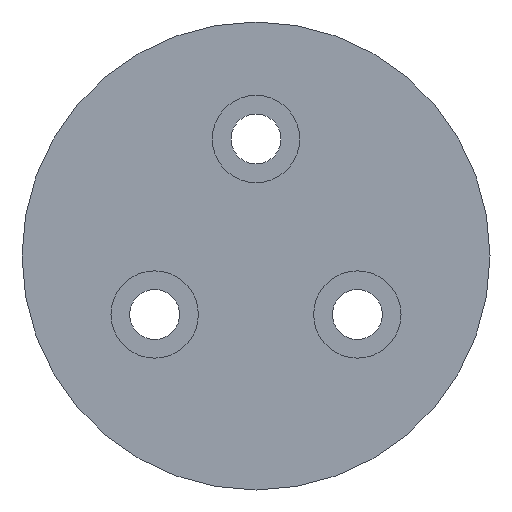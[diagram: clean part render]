
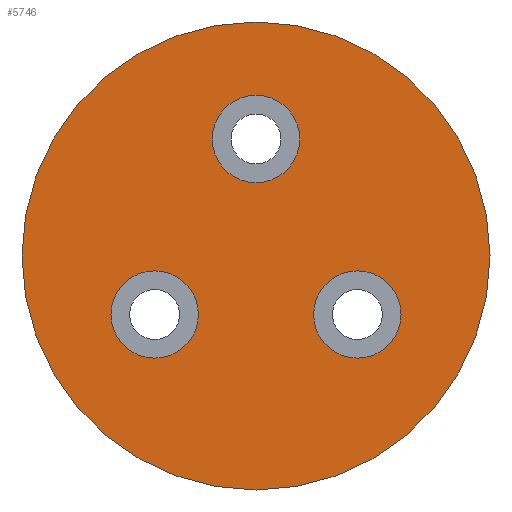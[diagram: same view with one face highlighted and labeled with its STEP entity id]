
A CAD part, front view. The second image highlights one B-rep face of the part: STEP entity #5746.
In plain terms, the highlighted planar face has unit normal (0, -1, 0).
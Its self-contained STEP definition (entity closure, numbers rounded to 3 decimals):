
#5596 = VERTEX_POINT ( 'NONE', #7593 ) ;
#5601 = EDGE_CURVE ( 'NONE', #5610, #5596, #7588, .T. ) ;
#5610 = VERTEX_POINT ( 'NONE', #7627 ) ;
#5650 = VERTEX_POINT ( 'NONE', #7676 ) ;
#5651 = EDGE_CURVE ( 'NONE', #5657, #5650, #7675, .T. ) ;
#5657 = VERTEX_POINT ( 'NONE', #7725 ) ;
#5662 = VERTEX_POINT ( 'NONE', #7713 ) ;
#5679 = EDGE_LOOP ( 'NONE', ( #5720, #5733 ) ) ;
#5681 = EDGE_LOOP ( 'NONE', ( #5736, #5725 ) ) ;
#5693 = EDGE_CURVE ( 'NONE', #5662, #5699, #7793, .T. ) ;
#5699 = VERTEX_POINT ( 'NONE', #7776 ) ;
#5714 = EDGE_CURVE ( 'NONE', #5721, #5722, #7814, .T. ) ;
#5717 = ORIENTED_EDGE ( 'NONE', *, *, #5651, .F. ) ;
#5718 = EDGE_CURVE ( 'NONE', #5596, #5610, #7809, .T. ) ;
#5720 = ORIENTED_EDGE ( 'NONE', *, *, #5714, .F. ) ;
#5721 = VERTEX_POINT ( 'NONE', #7804 ) ;
#5722 = VERTEX_POINT ( 'NONE', #7803 ) ;
#5723 = EDGE_CURVE ( 'NONE', #5722, #5721, #7802, .T. ) ;
#5725 = ORIENTED_EDGE ( 'NONE', *, *, #5601, .F. ) ;
#5726 = EDGE_LOOP ( 'NONE', ( #5735, #5741 ) ) ;
#5731 = ORIENTED_EDGE ( 'NONE', *, *, #5732, .F. ) ;
#5732 = EDGE_CURVE ( 'NONE', #5650, #5657, #7850, .T. ) ;
#5733 = ORIENTED_EDGE ( 'NONE', *, *, #5723, .F. ) ;
#5735 = ORIENTED_EDGE ( 'NONE', *, *, #5740, .F. ) ;
#5736 = ORIENTED_EDGE ( 'NONE', *, *, #5718, .F. ) ;
#5740 = EDGE_CURVE ( 'NONE', #5699, #5662, #7838, .T. ) ;
#5741 = ORIENTED_EDGE ( 'NONE', *, *, #5693, .F. ) ;
#5746 = ADVANCED_FACE ( 'NONE', ( #7893, #7888, #7887, #7886 ), #7885, .F. ) ;
#5747 = EDGE_LOOP ( 'NONE', ( #5731, #5717 ) ) ;
#7584 = DIRECTION ( 'NONE',  ( 0., 0., -1. ) ) ;
#7585 = DIRECTION ( 'NONE',  ( 0., -1., 0. ) ) ;
#7586 = CARTESIAN_POINT ( 'NONE',  ( 0., 0., 9.525 ) ) ;
#7587 = AXIS2_PLACEMENT_3D ( 'NONE', #7586, #7585, #7584 ) ;
#7588 = CIRCLE ( 'NONE', #7587, 3.556 ) ;
#7593 = CARTESIAN_POINT ( 'NONE',  ( 0., 0., 5.969 ) ) ;
#7627 = CARTESIAN_POINT ( 'NONE',  ( 0., 0., 13.081 ) ) ;
#7671 = DIRECTION ( 'NONE',  ( 0., 0., -1. ) ) ;
#7672 = DIRECTION ( 'NONE',  ( 0., -1., 0. ) ) ;
#7673 = CARTESIAN_POINT ( 'NONE',  ( -8.249, 0., -4.762 ) ) ;
#7674 = AXIS2_PLACEMENT_3D ( 'NONE', #7673, #7672, #7671 ) ;
#7675 = CIRCLE ( 'NONE', #7674, 3.556 ) ;
#7676 = CARTESIAN_POINT ( 'NONE',  ( -8.249, 0., -8.318 ) ) ;
#7713 = CARTESIAN_POINT ( 'NONE',  ( 8.249, 0., -1.206 ) ) ;
#7725 = CARTESIAN_POINT ( 'NONE',  ( -8.249, 0., -1.206 ) ) ;
#7776 = CARTESIAN_POINT ( 'NONE',  ( 8.249, 0., -8.318 ) ) ;
#7789 = DIRECTION ( 'NONE',  ( 0., 0., -1. ) ) ;
#7790 = DIRECTION ( 'NONE',  ( 0., -1., 0. ) ) ;
#7791 = CARTESIAN_POINT ( 'NONE',  ( 8.249, 0., -4.762 ) ) ;
#7792 = AXIS2_PLACEMENT_3D ( 'NONE', #7791, #7790, #7789 ) ;
#7793 = CIRCLE ( 'NONE', #7792, 3.556 ) ;
#7798 = DIRECTION ( 'NONE',  ( 0., 0., 1. ) ) ;
#7799 = DIRECTION ( 'NONE',  ( 0., 1., 0. ) ) ;
#7800 = CARTESIAN_POINT ( 'NONE',  ( 0., 0., 0. ) ) ;
#7801 = AXIS2_PLACEMENT_3D ( 'NONE', #7800, #7799, #7798 ) ;
#7802 = CIRCLE ( 'NONE', #7801, 19.05 ) ;
#7803 = CARTESIAN_POINT ( 'NONE',  ( 0., 0., 19.05 ) ) ;
#7804 = CARTESIAN_POINT ( 'NONE',  ( 0., 0., -19.05 ) ) ;
#7805 = DIRECTION ( 'NONE',  ( 0., 0., -1. ) ) ;
#7806 = DIRECTION ( 'NONE',  ( 0., -1., 0. ) ) ;
#7807 = CARTESIAN_POINT ( 'NONE',  ( 0., 0., 9.525 ) ) ;
#7808 = AXIS2_PLACEMENT_3D ( 'NONE', #7807, #7806, #7805 ) ;
#7809 = CIRCLE ( 'NONE', #7808, 3.556 ) ;
#7810 = DIRECTION ( 'NONE',  ( 0., 0., 1. ) ) ;
#7811 = DIRECTION ( 'NONE',  ( 0., 1., 0. ) ) ;
#7812 = CARTESIAN_POINT ( 'NONE',  ( 0., 0., 0. ) ) ;
#7813 = AXIS2_PLACEMENT_3D ( 'NONE', #7812, #7811, #7810 ) ;
#7814 = CIRCLE ( 'NONE', #7813, 19.05 ) ;
#7829 = DIRECTION ( 'NONE',  ( 0., 0., -1. ) ) ;
#7830 = DIRECTION ( 'NONE',  ( 0., -1., 0. ) ) ;
#7831 = CARTESIAN_POINT ( 'NONE',  ( 8.249, 0., -4.762 ) ) ;
#7832 = AXIS2_PLACEMENT_3D ( 'NONE', #7831, #7830, #7829 ) ;
#7838 = CIRCLE ( 'NONE', #7832, 3.556 ) ;
#7846 = DIRECTION ( 'NONE',  ( 0., 0., -1. ) ) ;
#7847 = DIRECTION ( 'NONE',  ( 0., -1., 0. ) ) ;
#7848 = CARTESIAN_POINT ( 'NONE',  ( -8.249, 0., -4.762 ) ) ;
#7849 = AXIS2_PLACEMENT_3D ( 'NONE', #7848, #7847, #7846 ) ;
#7850 = CIRCLE ( 'NONE', #7849, 3.556 ) ;
#7880 = DIRECTION ( 'NONE',  ( 0., 0., 1. ) ) ;
#7881 = DIRECTION ( 'NONE',  ( 0., 1., 0. ) ) ;
#7882 = AXIS2_PLACEMENT_3D ( 'NONE', #7884, #7881, #7880 ) ;
#7884 = CARTESIAN_POINT ( 'NONE',  ( 0., 0., 0. ) ) ;
#7885 = PLANE ( 'NONE',  #7882 ) ;
#7886 = FACE_OUTER_BOUND ( 'NONE', #5679, .T. ) ;
#7887 = FACE_BOUND ( 'NONE', #5726, .T. ) ;
#7888 = FACE_BOUND ( 'NONE', #5681, .T. ) ;
#7893 = FACE_BOUND ( 'NONE', #5747, .T. ) ;
